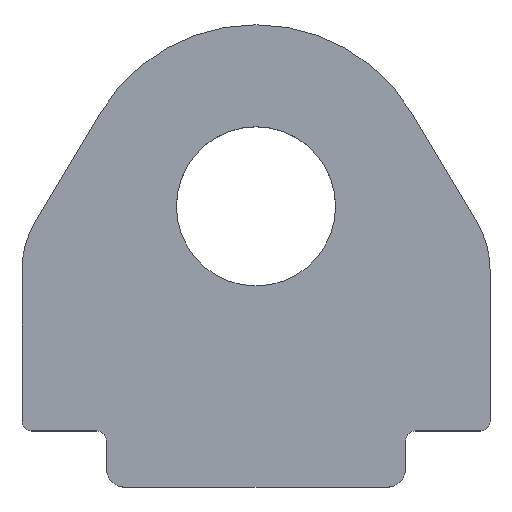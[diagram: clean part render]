
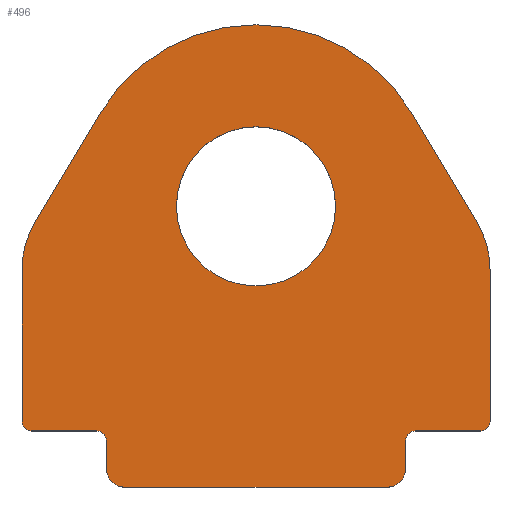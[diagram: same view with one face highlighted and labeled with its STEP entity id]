
A CAD part, top view. The second image highlights one B-rep face of the part: STEP entity #496.
In plain terms, the highlighted planar face has unit normal (0, 0, 1).
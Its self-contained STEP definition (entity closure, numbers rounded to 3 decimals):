
#118=CARTESIAN_POINT('',(0.,12.,1.5));
#119=DIRECTION('',(0.,0.,-1.));
#120=DIRECTION('',(1.,0.,0.));
#121=AXIS2_PLACEMENT_3D('',#118,#119,#120);
#123=CARTESIAN_POINT('',(0.,12.,1.5));
#124=DIRECTION('',(0.,0.,-1.));
#125=DIRECTION('',(-1.,0.,0.));
#126=AXIS2_PLACEMENT_3D('',#123,#124,#125);
#128=CARTESIAN_POINT('',(-7.5,8.618,1.5));
#129=DIRECTION('',(0.,0.,1.));
#130=DIRECTION('',(-0.858,0.513,0.));
#131=AXIS2_PLACEMENT_3D('',#128,#129,#130);
#133=DIRECTION('',(-0.513,-0.858,0.));
#134=VECTOR('',#133,6.752);
#135=CARTESIAN_POINT('',(-8.324,16.98,1.5));
#136=LINE('',#135,#134);
#137=CARTESIAN_POINT('',(0.,12.,1.5));
#138=DIRECTION('',(0.,0.,1.));
#139=DIRECTION('',(0.858,0.513,0.));
#140=AXIS2_PLACEMENT_3D('',#137,#138,#139);
#142=DIRECTION('',(-0.513,0.858,0.));
#143=VECTOR('',#142,6.752);
#144=CARTESIAN_POINT('',(11.791,11.186,1.5));
#145=LINE('',#144,#143);
#146=CARTESIAN_POINT('',(7.5,8.618,1.5));
#147=DIRECTION('',(0.,0.,1.));
#148=DIRECTION('',(1.,0.,0.));
#149=AXIS2_PLACEMENT_3D('',#146,#147,#148);
#151=DIRECTION('',(0.,1.,0.));
#152=VECTOR('',#151,8.118);
#153=CARTESIAN_POINT('',(12.5,0.5,1.5));
#154=LINE('',#153,#152);
#155=CARTESIAN_POINT('',(12.,0.5,1.5));
#156=DIRECTION('',(0.,0.,1.));
#157=DIRECTION('',(0.,-1.,0.));
#158=AXIS2_PLACEMENT_3D('',#155,#156,#157);
#160=DIRECTION('',(1.,0.,0.));
#161=VECTOR('',#160,3.5);
#162=CARTESIAN_POINT('',(8.5,0.,1.5));
#163=LINE('',#162,#161);
#164=DIRECTION('',(0.,1.,0.));
#165=VECTOR('',#164,1.5);
#166=CARTESIAN_POINT('',(8.,-2.,1.5));
#167=LINE('',#166,#165);
#168=CARTESIAN_POINT('',(7.,-2.,1.5));
#169=DIRECTION('',(0.,0.,1.));
#170=DIRECTION('',(0.,-1.,0.));
#171=AXIS2_PLACEMENT_3D('',#168,#169,#170);
#173=DIRECTION('',(1.,0.,0.));
#174=VECTOR('',#173,14.);
#175=CARTESIAN_POINT('',(-7.,-3.,1.5));
#176=LINE('',#175,#174);
#177=CARTESIAN_POINT('',(-7.,-2.,1.5));
#178=DIRECTION('',(0.,0.,1.));
#179=DIRECTION('',(-1.,0.,0.));
#180=AXIS2_PLACEMENT_3D('',#177,#178,#179);
#182=DIRECTION('',(0.,-1.,0.));
#183=VECTOR('',#182,1.5);
#184=CARTESIAN_POINT('',(-8.,-0.5,1.5));
#185=LINE('',#184,#183);
#186=DIRECTION('',(1.,0.,0.));
#187=VECTOR('',#186,3.5);
#188=CARTESIAN_POINT('',(-12.,0.,1.5));
#189=LINE('',#188,#187);
#190=CARTESIAN_POINT('',(-12.,0.5,1.5));
#191=DIRECTION('',(0.,0.,1.));
#192=DIRECTION('',(-1.,0.,0.));
#193=AXIS2_PLACEMENT_3D('',#190,#191,#192);
#195=DIRECTION('',(0.,-1.,0.));
#196=VECTOR('',#195,8.118);
#197=CARTESIAN_POINT('',(-12.5,8.618,1.5));
#198=LINE('',#197,#196);
#236=CARTESIAN_POINT('',(8.5,-0.5,1.5));
#237=DIRECTION('',(0.,0.,-1.));
#238=DIRECTION('',(-1.,0.,0.));
#239=AXIS2_PLACEMENT_3D('',#236,#237,#238);
#270=CARTESIAN_POINT('',(-8.5,-0.5,1.5));
#271=DIRECTION('',(0.,0.,-1.));
#272=DIRECTION('',(0.,1.,0.));
#273=AXIS2_PLACEMENT_3D('',#270,#271,#272);
#299=CARTESIAN_POINT('',(4.25,12.,1.5));
#300=CARTESIAN_POINT('',(-4.25,12.,1.5));
#301=VERTEX_POINT('',#299);
#302=VERTEX_POINT('',#300);
#303=CARTESIAN_POINT('',(8.324,16.98,1.5));
#304=CARTESIAN_POINT('',(-8.324,16.98,1.5));
#305=VERTEX_POINT('',#303);
#306=VERTEX_POINT('',#304);
#308=CARTESIAN_POINT('',(-8.,-0.5,1.5));
#310=VERTEX_POINT('',#308);
#312=CARTESIAN_POINT('',(-8.5,0.,1.5));
#314=VERTEX_POINT('',#312);
#316=CARTESIAN_POINT('',(8.5,0.,1.5));
#318=VERTEX_POINT('',#316);
#320=CARTESIAN_POINT('',(8.,-0.5,1.5));
#322=VERTEX_POINT('',#320);
#327=CARTESIAN_POINT('',(-11.791,11.186,1.5));
#328=VERTEX_POINT('',#327);
#329=CARTESIAN_POINT('',(-12.5,8.618,1.5));
#330=VERTEX_POINT('',#329);
#335=CARTESIAN_POINT('',(12.5,8.618,1.5));
#336=VERTEX_POINT('',#335);
#337=CARTESIAN_POINT('',(11.791,11.186,1.5));
#338=VERTEX_POINT('',#337);
#343=CARTESIAN_POINT('',(-8.,-2.,1.5));
#344=VERTEX_POINT('',#343);
#345=CARTESIAN_POINT('',(-7.,-3.,1.5));
#346=VERTEX_POINT('',#345);
#351=CARTESIAN_POINT('',(7.,-3.,1.5));
#352=VERTEX_POINT('',#351);
#353=CARTESIAN_POINT('',(8.,-2.,1.5));
#354=VERTEX_POINT('',#353);
#359=CARTESIAN_POINT('',(-12.5,0.5,1.5));
#360=VERTEX_POINT('',#359);
#361=CARTESIAN_POINT('',(-12.,0.,1.5));
#362=VERTEX_POINT('',#361);
#367=CARTESIAN_POINT('',(12.,0.,1.5));
#368=VERTEX_POINT('',#367);
#369=CARTESIAN_POINT('',(12.5,0.5,1.5));
#370=VERTEX_POINT('',#369);
#449=CARTESIAN_POINT('',(0.,0.,1.5));
#450=DIRECTION('',(0.,0.,1.));
#451=DIRECTION('',(1.,0.,0.));
#452=AXIS2_PLACEMENT_3D('',#449,#450,#451);
#453=PLANE('',#452);
#455=ORIENTED_EDGE('',*,*,#454,.F.);
#457=ORIENTED_EDGE('',*,*,#456,.F.);
#459=ORIENTED_EDGE('',*,*,#458,.F.);
#461=ORIENTED_EDGE('',*,*,#460,.F.);
#463=ORIENTED_EDGE('',*,*,#462,.F.);
#465=ORIENTED_EDGE('',*,*,#464,.F.);
#467=ORIENTED_EDGE('',*,*,#466,.F.);
#469=ORIENTED_EDGE('',*,*,#468,.F.);
#471=ORIENTED_EDGE('',*,*,#470,.F.);
#473=ORIENTED_EDGE('',*,*,#472,.F.);
#475=ORIENTED_EDGE('',*,*,#474,.F.);
#477=ORIENTED_EDGE('',*,*,#476,.F.);
#479=ORIENTED_EDGE('',*,*,#478,.F.);
#481=ORIENTED_EDGE('',*,*,#480,.F.);
#483=ORIENTED_EDGE('',*,*,#482,.F.);
#485=ORIENTED_EDGE('',*,*,#484,.F.);
#487=ORIENTED_EDGE('',*,*,#486,.F.);
#489=ORIENTED_EDGE('',*,*,#488,.F.);
#490=EDGE_LOOP('',(#455,#457,#459,#461,#463,#465,#467,#469,#471,#473,#475,#477,
#479,#481,#483,#485,#487,#489));
#491=FACE_OUTER_BOUND('',#490,.F.);
#492=ORIENTED_EDGE('',*,*,#429,.F.);
#493=ORIENTED_EDGE('',*,*,#443,.F.);
#494=EDGE_LOOP('',(#492,#493));
#495=FACE_BOUND('',#494,.F.);
#122=CIRCLE('',#121,4.25);
#127=CIRCLE('',#126,4.25);
#132=CIRCLE('',#131,5.);
#141=CIRCLE('',#140,9.7);
#150=CIRCLE('',#149,5.);
#159=CIRCLE('',#158,0.5);
#172=CIRCLE('',#171,1.);
#181=CIRCLE('',#180,1.);
#194=CIRCLE('',#193,0.5);
#240=CIRCLE('',#239,0.5);
#274=CIRCLE('',#273,0.5);
#429=EDGE_CURVE('',#301,#302,#122,.T.);
#443=EDGE_CURVE('',#302,#301,#127,.T.);
#454=EDGE_CURVE('',#328,#330,#132,.T.);
#456=EDGE_CURVE('',#306,#328,#136,.T.);
#458=EDGE_CURVE('',#305,#306,#141,.T.);
#460=EDGE_CURVE('',#338,#305,#145,.T.);
#462=EDGE_CURVE('',#336,#338,#150,.T.);
#464=EDGE_CURVE('',#370,#336,#154,.T.);
#466=EDGE_CURVE('',#368,#370,#159,.T.);
#468=EDGE_CURVE('',#318,#368,#163,.T.);
#470=EDGE_CURVE('',#322,#318,#240,.T.);
#472=EDGE_CURVE('',#354,#322,#167,.T.);
#474=EDGE_CURVE('',#352,#354,#172,.T.);
#476=EDGE_CURVE('',#346,#352,#176,.T.);
#478=EDGE_CURVE('',#344,#346,#181,.T.);
#480=EDGE_CURVE('',#310,#344,#185,.T.);
#482=EDGE_CURVE('',#314,#310,#274,.T.);
#484=EDGE_CURVE('',#362,#314,#189,.T.);
#486=EDGE_CURVE('',#360,#362,#194,.T.);
#488=EDGE_CURVE('',#330,#360,#198,.T.);
#496=ADVANCED_FACE('',(#491,#495),#453,.T.);
